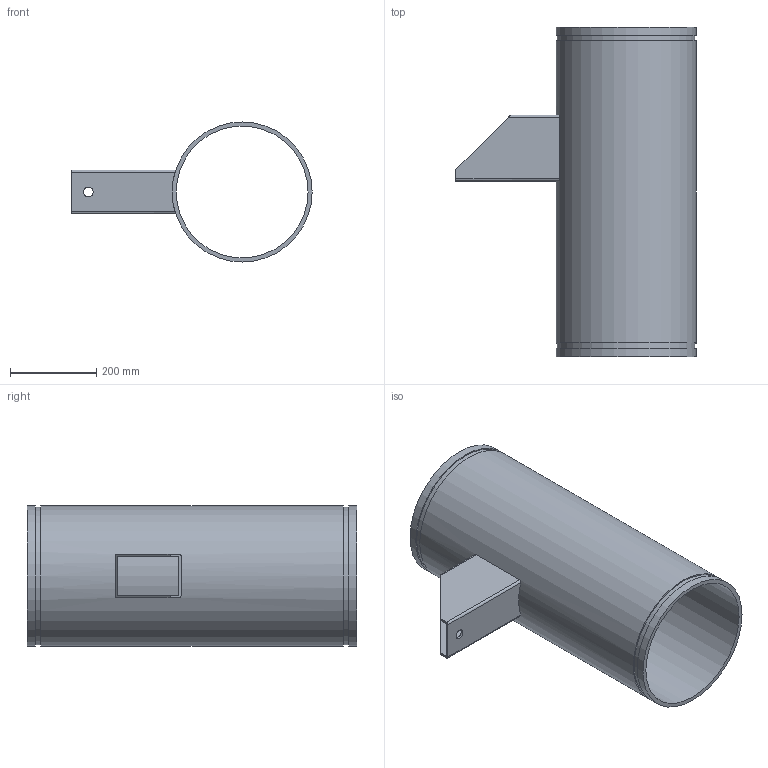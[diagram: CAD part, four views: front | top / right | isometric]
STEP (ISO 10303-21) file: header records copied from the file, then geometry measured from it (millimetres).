
FILE_DESCRIPTION(/* description */ ('VIC FLOOR MOUNTED RISER ANCHOR No A40'),/* implementation_level */ '2;1');
FILE_NAME(/* name */ 'C:\Files for Export\A40 & A40S-STEP-SWX\STEP\Victaulic_IPS_Riser Anchor_No A40 (OGS)\Victaulic_IPS_Riser Anchor_No A40 (OGS)_12 (300).stp',/* time_stamp */ '2024-06-07T07:36:36+02:00',/* author */ ('kkamble'),/* organization */ ('Victaulic'),/* preprocessor_version */ 'ST-DEVELOPER v18.1',/* originating_system */ 'Autodesk Inventor 2020',/* authorisation */ '');
FILE_SCHEMA (('AUTOMOTIVE_DESIGN { 1 0 10303 214 3 1 1 }'));
Length unit declared in the file: inch
Products named in the file (1): A40-12.0
Bounding box: 555.62 x 762 x 323.85 mm (x, y, z)
Volume: 7537932 mm3; surface area: 1709519.9 mm2
Topology: 1 solids, 1 shells, 28 faces, 78 edges, 56 vertices
Faces by surface type: plane 16, cylinder 12
Full cylindrical faces by diameter (mm): 22.225 x1, 304.8 x1, 318.287 x2, 323.85 x3
Entity records: 1041 total; most frequent: CARTESIAN_POINT 199, DIRECTION 168, ORIENTED_EDGE 156, EDGE_CURVE 78, AXIS2_PLACEMENT_3D 65, VERTEX_POINT 56, LINE 38, VECTOR 38
